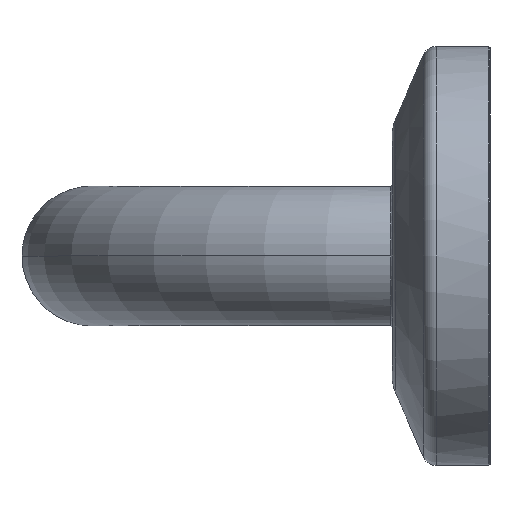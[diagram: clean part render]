
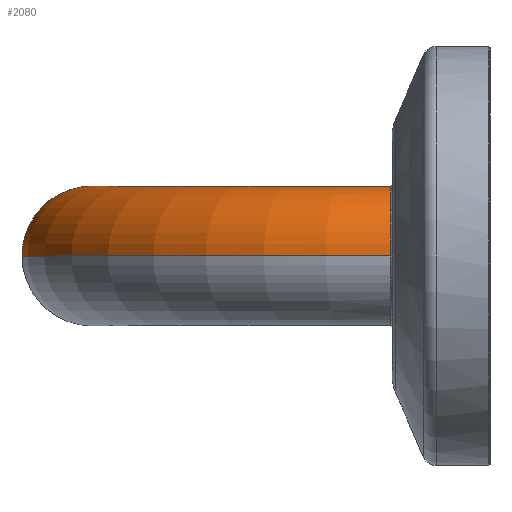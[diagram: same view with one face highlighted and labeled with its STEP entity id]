
A CAD part, left-side view. The second image highlights one B-rep face of the part: STEP entity #2080.
In plain terms, the highlighted toroidal (fillet/blend) face has major radius 43 mm and minor radius 10 mm.
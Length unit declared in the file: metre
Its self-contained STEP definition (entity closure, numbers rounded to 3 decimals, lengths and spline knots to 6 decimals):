
#490=EDGE_CURVE('',#491,#494,#496,.T.);
#491=VERTEX_POINT('',#492);
#492=CARTESIAN_POINT('',(-0.297,0.043,0.01));
#493=CARTESIAN_POINT('',(-0.297,0.043,0.01));
#494=VERTEX_POINT('',#495);
#495=CARTESIAN_POINT('',(-0.297,0.053,0.0));
#496=(B_SPLINE_CURVE(3,(#493,#497,#498,#499),.UNSPECIFIED.,.F.,.U.)B_SPLINE_CURVE_WITH_KNOTS(
  (4,4),(0.0,1.0),.UNSPECIFIED.)BOUNDED_CURVE()CURVE()GEOMETRIC_REPRESENTATION_ITEM(
  )RATIONAL_B_SPLINE_CURVE((1.0,0.805,0.805,1.0)
  )REPRESENTATION_ITEM(''));
#497=CARTESIAN_POINT('',(-0.297,0.048858,0.01));
#498=CARTESIAN_POINT('',(-0.297,0.053,0.005858));
#499=CARTESIAN_POINT('',(-0.297,0.053,0.0));
#526=CIRCLE('',#527,0.01);
#527=AXIS2_PLACEMENT_3D('',#528,#529,#530);
#528=CARTESIAN_POINT('',(-0.297,0.043,0.0));
#529=DIRECTION('',(-1.0,0.0,0.));
#530=DIRECTION('',(0.0,1.0,0.));
#532=TOROIDAL_SURFACE('',#533,0.043,0.01);
#533=AXIS2_PLACEMENT_3D('',#534,#535,#536);
#534=CARTESIAN_POINT('',(-0.297,0.0,0.0));
#535=DIRECTION('',(0.,0.0,1.0));
#536=DIRECTION('',(-1.0,0.0,0.));
#542=VERTEX_POINT('',#543);
#543=CARTESIAN_POINT('',(-0.297,0.033,0.0));
#545=EDGE_CURVE('',#542,#546,#548,.T.);
#546=VERTEX_POINT('',#547);
#547=CARTESIAN_POINT('',(-0.329999,0.000201,
  0.));
#548=CIRCLE('',#549,0.033);
#549=AXIS2_PLACEMENT_3D('',#550,#551,#552);
#550=CARTESIAN_POINT('',(-0.297,0.0,0.0));
#551=DIRECTION('',(0.,0.0,1.0));
#552=DIRECTION('',(1.0,0.0,0.));
#609=VERTEX_POINT('',#610);
#610=CARTESIAN_POINT('',(-0.35,0.000199,
  0.));
#657=EDGE_CURVE('',#494,#609,#658,.T.);
#658=CIRCLE('',#659,0.053);
#659=AXIS2_PLACEMENT_3D('',#660,#661,#662);
#660=CARTESIAN_POINT('',(-0.297,0.0,0.0));
#661=DIRECTION('',(0.,0.0,1.0));
#662=DIRECTION('',(1.0,0.0,0.));
#1721=VERTEX_POINT('',#1722);
#1722=CARTESIAN_POINT('',(-0.34,0.0002,
  0.01));
#1726=CARTESIAN_POINT('',(-0.35,0.0002,
  0.));
#1727=EDGE_CURVE('',#609,#1721,#1728,.T.);
#1728=B_SPLINE_CURVE_WITH_KNOTS('',3,(#1726,#1729,#1730,#1731,#1732,#1733,
  #1734,#1735,#1736,#1737,#1738,#1739,#1740,#1741,#1742,#1743,#1744,
  #1745,#1746,#1747,#1748,#1749,#1750,#1751,#1752,#1753,#1754,#1755,
  #1756,#1757,#1758),.UNSPECIFIED.,.F.,.U.,(4,2,2,2,2,2,2,2,2,1,1,1,2,2,
  2,2,4),(0.0,0.0625,0.125,0.1875,0.25,0.3125,0.375,0.4375,0.5,0.5625,
  0.625,0.6875,0.75,0.8125,0.875,0.9375,1.0),.UNSPECIFIED.);
#1729=CARTESIAN_POINT('',(-0.35,0.0002,
  0.000323));
#1730=CARTESIAN_POINT('',(-0.349984,0.0002,
  0.000646));
#1731=CARTESIAN_POINT('',(-0.349921,0.0002,
  0.001289));
#1732=CARTESIAN_POINT('',(-0.349875,0.0002,
  0.001609));
#1733=CARTESIAN_POINT('',(-0.34975,0.0002,
  0.002245));
#1734=CARTESIAN_POINT('',(-0.349672,0.0002,
  0.00256));
#1735=CARTESIAN_POINT('',(-0.349486,0.0002,
  0.003181));
#1736=CARTESIAN_POINT('',(-0.349377,0.0002,
  0.003488));
#1737=CARTESIAN_POINT('',(-0.349131,0.0002,
  0.004089));
#1738=CARTESIAN_POINT('',(-0.348993,0.0002,
  0.004384));
#1739=CARTESIAN_POINT('',(-0.348689,0.0002,
  0.00496));
#1740=CARTESIAN_POINT('',(-0.348523,0.0002,
  0.00524));
#1741=CARTESIAN_POINT('',(-0.348163,0.0002,
  0.005784));
#1742=CARTESIAN_POINT('',(-0.34797,0.0002,
  0.006048));
#1743=CARTESIAN_POINT('',(-0.347559,0.0002,
  0.006555));
#1744=CARTESIAN_POINT('',(-0.34734,0.0002,
  0.006799));
#1745=CARTESIAN_POINT('',(-0.34688,0.0002,
  0.007264));
#1746=CARTESIAN_POINT('',(-0.346396,0.0002,
  0.007707));
#1747=CARTESIAN_POINT('',(-0.345608,0.0002,
  0.008299));
#1748=CARTESIAN_POINT('',(-0.344764,0.0002,
  0.008811));
#1749=CARTESIAN_POINT('',(-0.344169,0.0002,
  0.009095));
#1750=CARTESIAN_POINT('',(-0.343561,0.0002,
  0.00935));
#1751=CARTESIAN_POINT('',(-0.343251,0.0002,
  0.009463));
#1752=CARTESIAN_POINT('',(-0.342619,0.0002,
  0.009656));
#1753=CARTESIAN_POINT('',(-0.342299,0.0002,
  0.009738));
#1754=CARTESIAN_POINT('',(-0.34165,0.0002,
  0.009868));
#1755=CARTESIAN_POINT('',(-0.341323,0.0002,
  0.009918));
#1756=CARTESIAN_POINT('',(-0.340663,0.0002,
  0.009983));
#1757=CARTESIAN_POINT('',(-0.340332,0.0002,
  0.01));
#1758=CARTESIAN_POINT('',(-0.34,0.0002,
  0.01));
#2073=FACE_OUTER_BOUND('',#2081,.T.);
#2080=ADVANCED_FACE('',(#2073),#532,.T.);
#2081=EDGE_LOOP('',(#2082,#2083,#2085,#2086,#2087,#2088));
#2082=ORIENTED_EDGE('',*,*,#545,.F.);
#2083=ORIENTED_EDGE('',*,*,#2084,.T.);
#2084=EDGE_CURVE('',#542,#491,#526,.T.);
#2085=ORIENTED_EDGE('',*,*,#490,.T.);
#2086=ORIENTED_EDGE('',*,*,#657,.T.);
#2087=ORIENTED_EDGE('',*,*,#1727,.T.);
#2088=ORIENTED_EDGE('',*,*,#2090,.T.);
#2089=CARTESIAN_POINT('',(-0.34,0.0002,
  0.01));
#2090=EDGE_CURVE('',#1721,#546,#2091,.T.);
#2091=B_SPLINE_CURVE_WITH_KNOTS('',3,(#2089,#2092,#2093,#2094,#2095,#2096,
  #2097,#2098,#2099,#2100,#2101,#2102,#2103,#2104,#2105,#2106,#2107,
  #2108,#2109,#2110,#2111,#2112,#2113,#2114,#2115,#2116,#2117,#2118,
  #2119,#2120,#2121,#2122,#2123,#2124,#2125,#2126,#2127,#2128,#2129,
  #2130,#2131,#2132,#2133,#2134,#2135,#2136,#2137,#2138),.UNSPECIFIED.,
  .F.,.U.,(4,1,1,1,1,1,1,1,1,1,1,1,1,1,1,1,1,1,1,1,1,1,1,1,1,1,1,1,1,1,1,
  1,1,1,1,1,1,1,1,1,1,1,1,1,1,4),(0.0,0.001795,
  0.004331,0.00761,0.011631,
  0.016395,0.0219,0.028148,
  0.035138,0.04287,0.051344,
  0.06056,0.070518,0.081219,
  0.092662,0.104846,0.117773,
  0.131442,0.145854,0.161007,
  0.176903,0.19354,0.21092,
  0.229042,0.247905,0.267511,
  0.287859,0.30895,0.330782,
  0.353356,0.376672,0.40073,
  0.456146,0.510009,0.562319,
  0.613076,0.66228,0.709931,
  0.756029,0.800574,0.843566,
  0.885004,0.924889,0.96322,
  0.999998,1.0),.UNSPECIFIED.);
#2092=CARTESIAN_POINT('',(-0.339991,0.0002,
  0.01));
#2093=CARTESIAN_POINT('',(-0.339968,0.0002,
  0.01));
#2094=CARTESIAN_POINT('',(-0.339928,0.0002,
  0.01));
#2095=CARTESIAN_POINT('',(-0.339877,0.0002,
  0.009999));
#2096=CARTESIAN_POINT('',(-0.339813,0.0002,
  0.009998));
#2097=CARTESIAN_POINT('',(-0.339739,0.0002,
  0.009997));
#2098=CARTESIAN_POINT('',(-0.339652,0.0002,
  0.009994));
#2099=CARTESIAN_POINT('',(-0.339554,0.0002,
  0.00999));
#2100=CARTESIAN_POINT('',(-0.339444,0.0002,
  0.009985));
#2101=CARTESIAN_POINT('',(-0.339323,0.0002,
  0.009977));
#2102=CARTESIAN_POINT('',(-0.339191,0.0002,
  0.009968));
#2103=CARTESIAN_POINT('',(-0.339046,0.0002,
  0.009955));
#2104=CARTESIAN_POINT('',(-0.338891,0.0002,
  0.009939));
#2105=CARTESIAN_POINT('',(-0.338724,0.0002,
  0.009919));
#2106=CARTESIAN_POINT('',(-0.338546,0.0002,
  0.009894));
#2107=CARTESIAN_POINT('',(-0.338357,0.0002,
  0.009865));
#2108=CARTESIAN_POINT('',(-0.338157,0.000201,
  0.009829));
#2109=CARTESIAN_POINT('',(-0.337946,0.000201,
  0.009788));
#2110=CARTESIAN_POINT('',(-0.337725,0.000201,
  0.009739));
#2111=CARTESIAN_POINT('',(-0.337494,0.000201,
  0.009682));
#2112=CARTESIAN_POINT('',(-0.337253,0.000201,
  0.009617));
#2113=CARTESIAN_POINT('',(-0.337003,0.000201,
  0.009542));
#2114=CARTESIAN_POINT('',(-0.336743,0.000201,
  0.009456));
#2115=CARTESIAN_POINT('',(-0.336475,0.000201,
  0.00936));
#2116=CARTESIAN_POINT('',(-0.3362,0.000201,
  0.009252));
#2117=CARTESIAN_POINT('',(-0.335917,0.000201,
  0.00913));
#2118=CARTESIAN_POINT('',(-0.335627,0.000201,
  0.008995));
#2119=CARTESIAN_POINT('',(-0.335331,0.000201,
  0.008846));
#2120=CARTESIAN_POINT('',(-0.335031,0.000201,
  0.008681));
#2121=CARTESIAN_POINT('',(-0.334726,0.000201,
  0.008499));
#2122=CARTESIAN_POINT('',(-0.334418,0.000201,
  0.0083));
#2123=CARTESIAN_POINT('',(-0.333977,0.000201,
  0.007992));
#2124=CARTESIAN_POINT('',(-0.333431,0.000201,
  0.007556));
#2125=CARTESIAN_POINT('',(-0.332816,0.000201,
  0.006973));
#2126=CARTESIAN_POINT('',(-0.332268,0.000201,
  0.00636));
#2127=CARTESIAN_POINT('',(-0.331787,0.000201,
  0.005723));
#2128=CARTESIAN_POINT('',(-0.33137,0.000201,
  0.005072));
#2129=CARTESIAN_POINT('',(-0.331015,0.000201,
  0.004412));
#2130=CARTESIAN_POINT('',(-0.33072,0.000201,
  0.00375));
#2131=CARTESIAN_POINT('',(-0.330481,0.000201,
  0.003092));
#2132=CARTESIAN_POINT('',(-0.330295,0.000201,
  0.002442));
#2133=CARTESIAN_POINT('',(-0.330157,0.000201,
  0.001806));
#2134=CARTESIAN_POINT('',(-0.330064,0.000201,
  0.001186));
#2135=CARTESIAN_POINT('',(-0.330011,0.000201,
  0.000586));
#2136=CARTESIAN_POINT('',(-0.329999,0.000201,
  0.000193));
#2137=CARTESIAN_POINT('',(-0.329999,0.000201,
  0.));
#2138=CARTESIAN_POINT('',(-0.329999,0.000201,
  0.));
